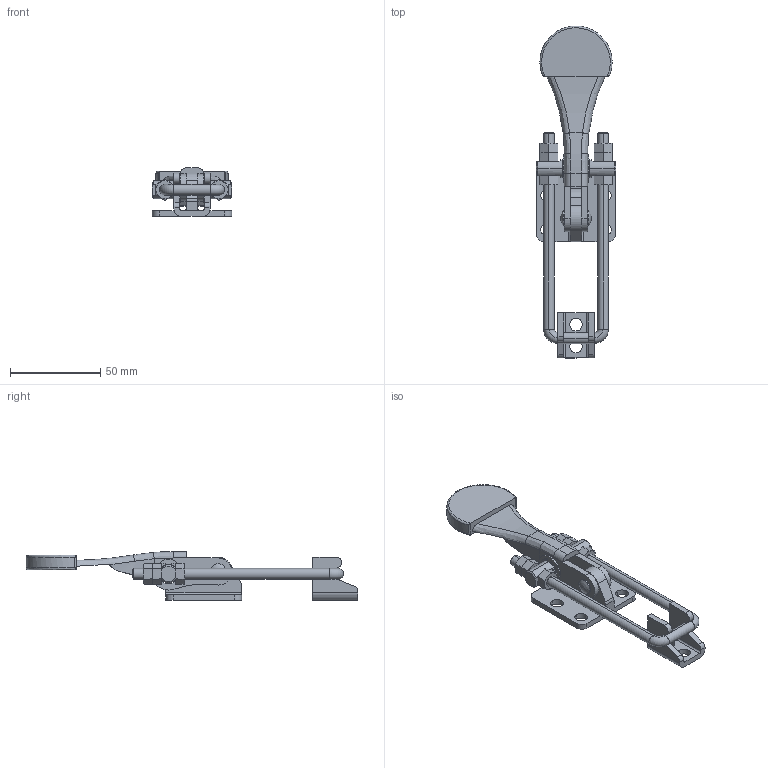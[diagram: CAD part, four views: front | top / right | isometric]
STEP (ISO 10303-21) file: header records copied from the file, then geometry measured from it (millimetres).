
FILE_DESCRIPTION(('CATIA V5 STEP Exchange'),'2;1');
FILE_NAME('D:\Model\toggle\toggle_standard\KJF_032_42FA.stp','2005-06-24T03:16:46+00:00',('none'),('none'),'CATIA Version 5 Release 11 (IN-9)','CATIA V5 STEP AP203',' none');
FILE_SCHEMA(('CONFIG_CONTROL_DESIGN'));
Length unit declared in the file: millimetre
Products named in the file (1): Part1
Bounding box: 44 x 184.03 x 27 mm (x, y, z)
Volume: 39861.3 mm3; surface area: 26718.3 mm2
Topology: 15 solids, 15 shells, 319 faces, 830 edges, 544 vertices
Faces by surface type: cylinder 128, plane 122, cone 46, bspline 15, sphere 4, torus 4
Entity records: 10611 total; most frequent: CARTESIAN_POINT 3514, ORIENTED_EDGE 1652, DIRECTION 1057, EDGE_CURVE 826, VERTEX_POINT 544, AXIS2_PLACEMENT_3D 530, EDGE_LOOP 362, ADVANCED_FACE 319
